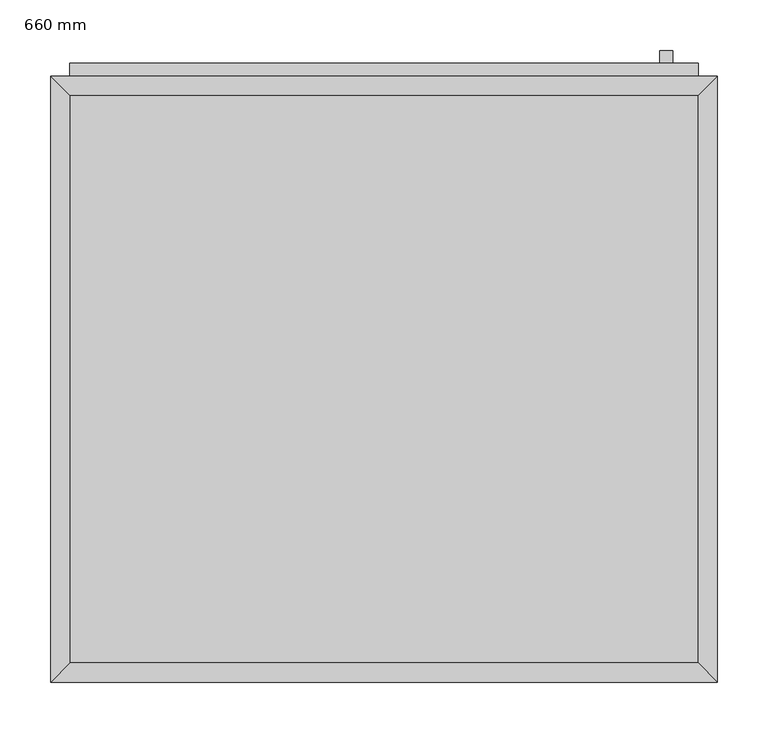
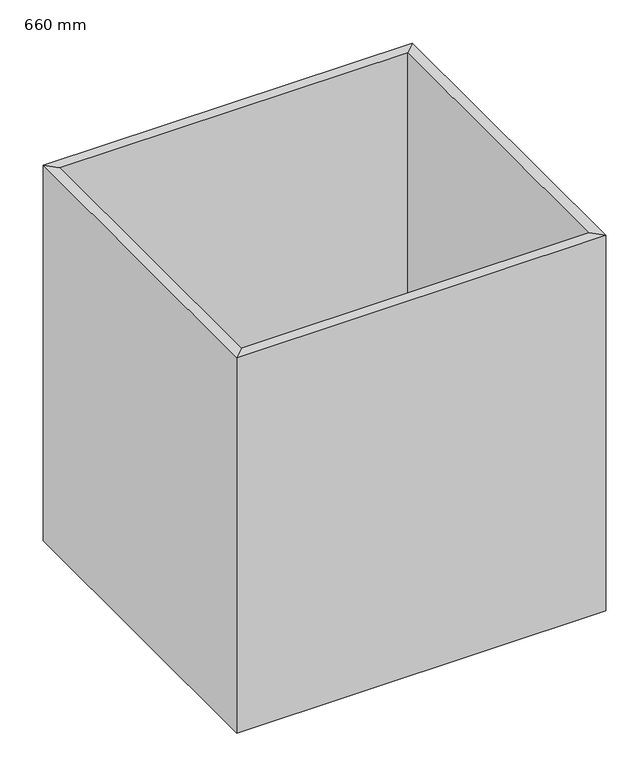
"""IFC4 building model written with IfcOpenShell, lengths in millimetres: furniture geometry, Armario-Una puerta : 660 mm."""

from ifc_helpers import new_model, si_unit, frame, origin, place, context, project, spatial, polyline, outline, extrude, faceted_brep, source, transform, mapped, element, save


def furniture_660_mm_2161e34f(model_context):
    return source(origin(), model_context, "Body", "SolidModel", [
        extrude(outline(polyline([(329.6877049, 19.05), (-292.2122951, 19.05), (-292.2122951, 580.95), (329.6877049, 580.95), (329.6877049, 19.05)])), frame((0.0, 0.0, 150.0), z_axis=(0.0, 0.0, 1.0), x_axis=(1.0, 0.0, 0.0)), (0.0, 0.0, 1.0), 19.05),
        faceted_brep([(329.6877049, 580.95, 860.0), (-292.2122951, 580.95, 860.0), (-292.2122951, 580.95, 150.0), (329.6877049, 580.95, 150.0), (348.7377049, 600.0, 860.0), (-311.2622951, 600.0, 860.0), (348.7377049, 600.0, 150.0), (-311.2622951, 600.0, 150.0), (-292.2122951, 19.05, 860.0), (-292.2122951, 19.05, 150.0), (-311.2622951, 0.0, 860.0), (-311.2622951, 0.0, 150.0), (329.6877049, 19.05, 860.0), (329.6877049, 19.05, 150.0), (348.7377049, 0.0, 860.0), (348.7377049, 0.0, 150.0)], [[[0, 1, 2, 3]], [[4, 5, 1, 0]], [[6, 7, 5, 4]], [[3, 2, 7, 6]], [[1, 8, 9, 2]], [[5, 10, 8, 1]], [[7, 11, 10, 5]], [[2, 9, 11, 7]], [[8, 12, 13, 9]], [[10, 14, 12, 8]], [[11, 15, 14, 10]], [[9, 13, 15, 11]], [[12, 0, 3, 13]], [[14, 4, 0, 12]], [[15, 6, 4, 14]], [[13, 3, 6, 15]]]),
        extrude(outline(polyline([(329.6877049, 612.7), (329.6877049, 600.0), (-292.2122951, 600.0), (-292.2122951, 612.7), (329.6877049, 612.7)])), frame((0.0, 0.0, 169.05), z_axis=(0.0, 0.0, 1.0), x_axis=(1.0, 0.0, 0.0)), (0.0, 0.0, 1.0), 671.9),
        extrude(outline(polyline([(304.2877049, 625.4), (304.2877049, 612.7), (291.5877049, 612.7), (291.5877049, 625.4), (304.2877049, 625.4)])), frame((0.0, 0.0, 701.25), z_axis=(0.0, 0.0, 1.0), x_axis=(1.0, 0.0, 0.0)), (0.0, 0.0, 1.0), 101.6),
    ])


if __name__ == "__main__":
    model = new_model("IFC4")
    model_context = context("Model", 3, world=origin())
    ifc_project = project(units=[si_unit("LENGTHUNIT", "METRE", prefix="MILLI")], contexts=[model_context])
    site = spatial("IfcSite", under=ifc_project)
    building = spatial("IfcBuilding", under=site)
    placement = place(None, origin())
    furniture_660_mm_shape = furniture_660_mm_2161e34f(model_context)
    element("IfcFurniture", 1, ObjectType="Armario-Una puerta : 660 mm", at=placement, inside=building, context=model_context, shape_type="MappedRepresentation", body=[
        mapped(furniture_660_mm_shape, transform((0.0, 0.0, 0.0), x_axis=(1.0, 0.0, 0.0), y_axis=(0.0, 1.0, 0.0), z_axis=(0.0, 0.0, 1.0))),
    ])
    save(model, "model.ifc")
